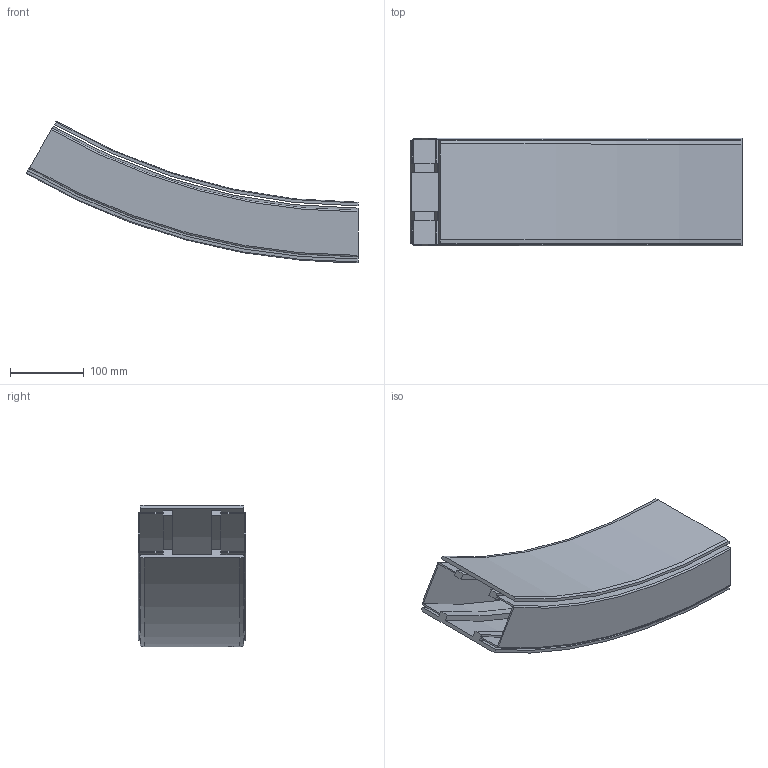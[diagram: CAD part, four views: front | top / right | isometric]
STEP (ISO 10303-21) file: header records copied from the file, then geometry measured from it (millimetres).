
FILE_DESCRIPTION(/* description */ ('VERTIKALKURVA S540 R860'),/* implementation_level */ '2;1');
FILE_NAME(/* name */ '540-5695+140-2000-NER-01.stp',/* time_stamp */ '2022-09-21T11:24:47+02:00',/* author */ ('Mathias.Dore'),/* organization */ ('CARRYLINE'),/* preprocessor_version */ 'ST-DEVELOPER v19.2',/* originating_system */ 'Autodesk Inventor 2023',/* authorisation */ '');
FILE_SCHEMA (('AUTOMOTIVE_DESIGN { 1 0 10303 214 3 1 1 }'));
Length unit declared in the file: millimetre
Products named in the file (1): 540-5695+140-2000-NER-01
Bounding box: 449.75 x 146 x 191.52 mm (x, y, z)
Volume: 1032136.7 mm3; surface area: 537724.9 mm2
Topology: 2 solids, 2 shells, 87 faces, 234 edges, 156 vertices
Faces by surface type: plane 40, cylinder 25, bspline 14, cone 4, torus 4
Entity records: 7369 total; most frequent: CARTESIAN_POINT 5170, ORIENTED_EDGE 468, DIRECTION 408, EDGE_CURVE 234, VERTEX_POINT 156, AXIS2_PLACEMENT_3D 141, LINE 126, VECTOR 126
